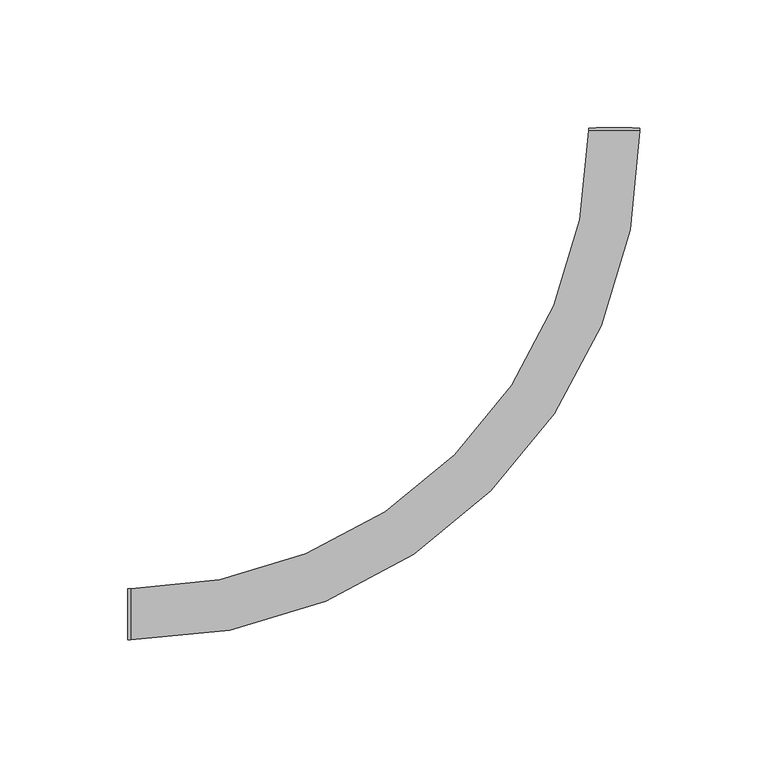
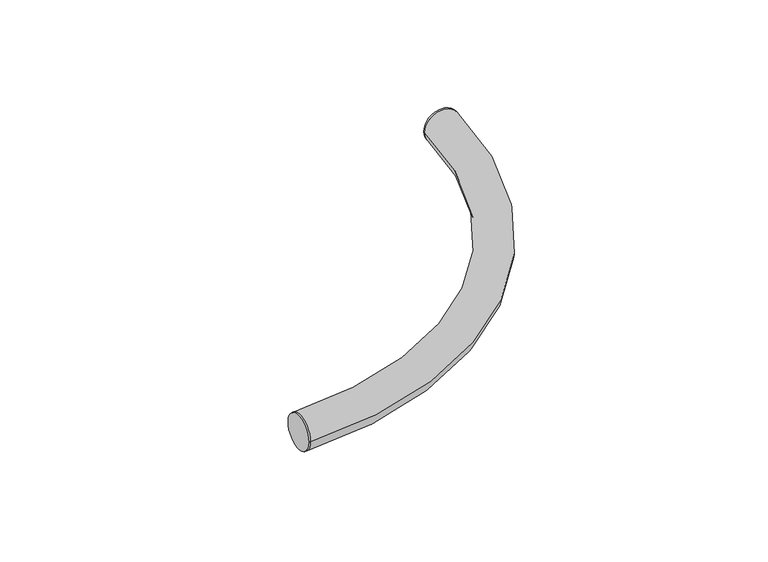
"""IFC4 building model written with IfcOpenShell, lengths in millimetres: cable carrier fitting geometry, ADSK_Поворот_Минимальный размер : Неспецифицируемый."""

import ifcopenshell
import ifcopenshell.guid

model = None  # the IFC model being written
_history = None  # IfcOwnerHistory: only IFC2X3 demands one
_inside = {}  # id of a spatial element -> (the spatial element, [elements in it])
_under = {}  # id of a project, library or spatial element -> (it, [spatial elements below it])
_declared = {}  # id of a project -> (the project, [libraries it declares])
_typed = {}  # id of a type object -> (the type object, [elements of that type])
_made_of = {}  # id of a material, layer set ... -> (it, [elements and type objects made of it])


def new_model(schema):
    """Start an empty IFC model of exactly this schema.

    Asked for "IFC4X3", IfcOpenShell would pick the latest addendum, in which some entities
    have other attributes; the version numbers below select the first issue.
    IFC2X3 requires an IfcOwnerHistory on every rooted entity: one is made here for all.
    """
    global model, _history
    if schema == "IFC4X3":
        model = ifcopenshell.file(schema_version=(4, 3, 0, 0))
    else:
        model = ifcopenshell.file(schema=schema)
    _inside.clear()
    _under.clear()
    _declared.clear()
    _typed.clear()
    _made_of.clear()
    _history = None
    if model.schema == "IFC2X3":
        org = make("IfcOrganization", Name="unknown")
        user = make(
            "IfcPersonAndOrganization",
            ThePerson=make("IfcPerson", FamilyName="unknown"),
            TheOrganization=org,
        )
        app = make(
            "IfcApplication",
            ApplicationDeveloper=org,
            Version="unknown",
            ApplicationFullName="unknown",
            ApplicationIdentifier="unknown",
        )
        _history = make(
            "IfcOwnerHistory",
            OwningUser=user,
            OwningApplication=app,
            ChangeAction="ADDED",
            CreationDate=0,
        )
    return model


def make(cls, **values):
    """One entity of the class cls with the attributes given. An attribute that is None is left unset."""
    return model.create_entity(
        cls, **{name: value for name, value in values.items() if value is not None}
    )


def rooted(cls, **values):
    """An entity with a GlobalId (a new one), such as an element, a storey or a relation."""
    return make(cls, GlobalId=ifcopenshell.guid.new(), OwnerHistory=_history, **values)


def si_unit(unit_type, name, prefix=None):
    """IfcSIUnit, for example si_unit("LENGTHUNIT", "METRE", prefix="MILLI")."""
    return make("IfcSIUnit", UnitType=unit_type, Prefix=prefix, Name=name)


def assignment(units):
    """IfcUnitAssignment: the units of a project."""
    return None if units is None else make("IfcUnitAssignment", Units=units)


def point(xyz):
    """IfcCartesianPoint."""
    return None if xyz is None else make("IfcCartesianPoint", Coordinates=xyz)


def direction(xyz):
    """IfcDirection."""
    return None if xyz is None else make("IfcDirection", DirectionRatios=xyz)


def frame(location, z_axis=None, x_axis=None):
    """IfcAxis2Placement3D, a coordinate frame: its origin and axes. An axis left out is left unset."""
    return make(
        "IfcAxis2Placement3D",
        Location=point(location),
        Axis=direction(z_axis),
        RefDirection=direction(x_axis),
    )


def origin():
    """The frame at (0, 0, 0) with its axes left unset."""
    return frame((0.0, 0.0, 0.0))


def place(relative_to, where):
    """IfcLocalPlacement: puts the frame where relative to a parent placement (None: the world)."""
    return make(
        "IfcLocalPlacement", PlacementRelTo=relative_to, RelativePlacement=where
    )


def context(
    kind, dimensions, precision=None, world=None, true_north=None, identifier=None
):
    """IfcGeometricRepresentationContext, for example the 3D "Model" context."""
    return make(
        "IfcGeometricRepresentationContext",
        ContextIdentifier=identifier,
        ContextType=kind,
        CoordinateSpaceDimension=dimensions,
        Precision=precision,
        WorldCoordinateSystem=world,
        TrueNorth=true_north,
    )


def project(units=None, contexts=None):
    """IfcProject with its units and contexts."""
    return rooted(
        "IfcProject",
        Name="project",
        RepresentationContexts=contexts,
        UnitsInContext=assignment(units),
    )


def spatial(cls, under=None, at=None, **own):
    """A site, building, storey or space (cls), placed at a placement, below another one or the project."""
    s = rooted(cls, ObjectPlacement=at, **own)
    if under is not None:
        _under.setdefault(under.id(), (under, []))[1].append(s)
    return s


def circle_curve(where, radius):
    """IfcCircle in the frame where."""
    return make("IfcCircle", Position=where, Radius=radius)


def ellipse_curve(where, semi_axis1, semi_axis2):
    """IfcEllipse in the frame where."""
    return make(
        "IfcEllipse", Position=where, SemiAxis1=semi_axis1, SemiAxis2=semi_axis2
    )


def trimmed(basis, trim1, trim2, sense, master):
    """IfcTrimmedCurve: the piece of a basis curve between two trims."""
    return make(
        "IfcTrimmedCurve",
        BasisCurve=basis,
        Trim1=trim1,
        Trim2=trim2,
        SenseAgreement=sense,
        MasterRepresentation=master,
    )


def shape(context_of_items, identifier, shape_type, items):
    """IfcShapeRepresentation: the items that make up one representation, for example the "Body"."""
    return make(
        "IfcShapeRepresentation",
        ContextOfItems=context_of_items,
        RepresentationIdentifier=identifier,
        RepresentationType=shape_type,
        Items=items,
    )


def source(mapping_origin, context_of_items, identifier, shape_type, items):
    """IfcRepresentationMap: a shape defined once, which mapped items show again and again."""
    return make(
        "IfcRepresentationMap",
        MappingOrigin=mapping_origin,
        MappedRepresentation=shape(context_of_items, identifier, shape_type, items),
    )


def transform(
    local_origin,
    x_axis=None,
    y_axis=None,
    z_axis=None,
    scale=None,
    scale2=None,
    scale3=None,
    uniform=True,
):
    """IfcCartesianTransformationOperator3D, or its non-uniform kind. x_axis, y_axis, z_axis: its Axis1, 2, 3."""
    if uniform:
        return make(
            "IfcCartesianTransformationOperator3D",
            Axis1=direction(x_axis),
            Axis2=direction(y_axis),
            LocalOrigin=point(local_origin),
            Scale=scale,
            Axis3=direction(z_axis),
        )
    return make(
        "IfcCartesianTransformationOperator3DnonUniform",
        Axis1=direction(x_axis),
        Axis2=direction(y_axis),
        LocalOrigin=point(local_origin),
        Scale=scale,
        Axis3=direction(z_axis),
        Scale2=scale2,
        Scale3=scale3,
    )


def mapped(mapping_source, mapping_target):
    """IfcMappedItem: shows the shape of a source again, moved by a transform."""
    return make(
        "IfcMappedItem", MappingSource=mapping_source, MappingTarget=mapping_target
    )


def made_of(thing, what):
    """Note that an element or type object is made of a material, layer set ...; save() writes the relation."""
    if what is not None:
        _made_of.setdefault(what.id(), (what, []))[1].append(thing)
    return thing


def element(
    cls,
    number,
    at=None,
    inside=None,
    cuts=None,
    type_object=None,
    material=None,
    context=None,
    identifier="Body",
    shape_type=None,
    held_by="IfcProductDefinitionShape",
    body=None,
    shapes=None,
    **own,
):
    """One element of the class cls, such as IfcWall. Its Tag is "e" and its number.

    at: its placement. inside: the storey or other place that contains it. cuts: it is an
    opening in that element (IfcRelVoidsElement). A single representation is given by context,
    identifier, shape_type and body (its items); several are given by shapes. held_by: the class
    of the entity that holds the representations. save() writes the other relations.
    """
    e = rooted(cls, Tag="e%d" % number, ObjectPlacement=at, **own)
    if body is not None:
        shapes = [shape(context, identifier, shape_type, body)]
    if shapes is not None:
        e.Representation = make(held_by, Representations=shapes)
    if inside is not None:
        _inside.setdefault(inside.id(), (inside, []))[1].append(e)
    if cuts is not None:
        rooted(
            "IfcRelVoidsElement", RelatingBuildingElement=cuts, RelatedOpeningElement=e
        )
    if type_object is not None:
        _typed.setdefault(type_object.id(), (type_object, []))[1].append(e)
    return made_of(e, material)


def aggregate(whole, parts):
    """IfcRelAggregates: a whole, such as a stair, and the parts it consists of."""
    return rooted("IfcRelAggregates", RelatingObject=whole, RelatedObjects=parts)


def save(model, path):
    """Write the relations noted so far, then the file.

    IfcRelAggregates (storeys below a building ...), IfcRelContainedInSpatialStructure (elements
    in a storey), IfcRelDefinesByType, IfcRelAssociatesMaterial and IfcRelDeclares: one each for
    every whole, place, type object, material and project.
    """
    for whole, parts in _under.values():
        aggregate(whole, parts)
    for where, things in _inside.values():
        rooted(
            "IfcRelContainedInSpatialStructure",
            RelatedElements=things,
            RelatingStructure=where,
        )
    for kind, things in _typed.values():
        rooted("IfcRelDefinesByType", RelatedObjects=things, RelatingType=kind)
    for what, things in _made_of.values():
        rooted("IfcRelAssociatesMaterial", RelatedObjects=things, RelatingMaterial=what)
    for by, libraries in _declared.values():
        rooted("IfcRelDeclares", RelatingContext=by, RelatedDefinitions=libraries)
    model.write(path)


def plane_surface(at):
    """IfcPlane: the flat surface through the origin of the frame at, square to its z axis."""
    return make("IfcPlane", Position=at)


def cylinder_surface(at, radius):
    """IfcCylindricalSurface: all points at the distance radius from the z axis of the frame at."""
    return make("IfcCylindricalSurface", Position=at, Radius=radius)


def revolved_surface(curve, axis_point, axis_direction):
    """IfcSurfaceOfRevolution: the curve turned about the line through axis_point along axis_direction."""
    return make(
        "IfcSurfaceOfRevolution",
        SweptCurve=make("IfcArbitraryOpenProfileDef", ProfileType="CURVE", Curve=curve),
        AxisPosition=make("IfcAxis1Placement", Location=point(axis_point), Axis=direction(axis_direction)),
    )


def advanced_brep(points, edges, surfaces, faces):
    """IfcAdvancedBrep: a solid bounded by faces that lie on surfaces and meet in shared edges.

    An edge is (start, end): straight between two places in points (the first is 0);
    or (start, end, curve); or (start, end, curve, False) where it runs against its curve.
    A face is (place in surfaces, loops), or (place, loops, False) where it looks against
    its surface's normal. A loop lists edges by number (the first is 1), with a minus sign
    where the edge is run from its end to its start. The first loop is the outer one.
    """
    corners = [point(p) for p in points]
    vertices = [make("IfcVertexPoint", VertexGeometry=c) for c in corners]
    made = []
    for start, end, *more in edges:
        made.append(
            make(
                "IfcEdgeCurve",
                EdgeStart=vertices[start],
                EdgeEnd=vertices[end],
                EdgeGeometry=more[0] if more else make("IfcPolyline", Points=[corners[start], corners[end]]),
                SameSense=more[1] if len(more) > 1 else True,
            )
        )
    hull = []
    for where, loops, *sense in faces:
        bounds = []
        for j, loop in enumerate(loops):
            ring = [make("IfcOrientedEdge", EdgeElement=made[abs(k) - 1], Orientation=k > 0) for k in loop]
            bounds.append(
                make(
                    "IfcFaceOuterBound" if j == 0 else "IfcFaceBound",
                    Bound=make("IfcEdgeLoop", EdgeList=ring),
                    Orientation=True,
                )
            )
        hull.append(make("IfcAdvancedFace", Bounds=bounds, FaceSurface=surfaces[where], SameSense=sense[0] if sense else True))
    return make("IfcAdvancedBrep", Outer=make("IfcClosedShell", CfsFaces=hull))


def cable_carrier_fitting_6f8a8c02(model_context):
    return source(origin(), model_context, "Body", "AdvancedBrep", [
        advanced_brep(
        [(-190.0, -10.0, 0.0), (-190.0, 10.0, 0.0), (-189.0, -10.0, 0.0), (-189.0, 10.0, 0.0), (-10.0, 189.0, 0.0), (10.0, 189.0, 0.0), (10.0, 190.0, 0.0), (-10.0, 190.0, 0.0)],
        [
            (0, 1, circle_curve(frame((-190.0, 0.0, 0.0), z_axis=(-1.0, -4.920489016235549e-12, 0.0), x_axis=(-4.920489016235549e-12, 1.0, 0.0)), 10.0)),
            (1, 0, circle_curve(frame((-190.0, 0.0, 0.0), z_axis=(-1.0, -4.920489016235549e-12, 0.0), x_axis=(-4.920489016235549e-12, 1.0, 0.0)), 10.0)),
            (0, 2),
            (2, 3, circle_curve(frame((-189.0, 0.0, 0.0), z_axis=(-1.0, -4.920489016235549e-12, 0.0), x_axis=(-4.920489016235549e-12, 1.0, 0.0)), 10.0)),
            (3, 1),
            (3, 2, circle_curve(frame((-189.0, 0.0, 0.0), z_axis=(-1.0, -4.920489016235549e-12, 0.0), x_axis=(-4.920489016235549e-12, 1.0, 0.0)), 10.0)),
            (4, 3, circle_curve(frame((-189.0, 189.0, 0.0), z_axis=(0.0, 0.0, -1.0), x_axis=(0.0, -1.0, 0.0)), 179.0)),
            (2, 5, circle_curve(frame((-189.0, 189.0, 0.0), z_axis=(0.0, 0.0, 1.0), x_axis=(0.0, -1.0, 0.0)), 199.0)),
            (5, 4, circle_curve(frame((0.0, 189.0, 0.0), z_axis=(0.0, -1.0, 0.0), x_axis=(-1.0, 0.0, 0.0)), 10.0)),
            (4, 5, circle_curve(frame((0.0, 189.0, 0.0), z_axis=(0.0, -1.0, 0.0), x_axis=(-1.0, 0.0, 0.0)), 10.0)),
            (6, 7, circle_curve(frame((0.0, 190.0, 0.0), z_axis=(0.0, 1.0, 0.0), x_axis=(-1.0, 0.0, 0.0)), 10.0)),
            (7, 6, circle_curve(frame((0.0, 190.0, 0.0), z_axis=(0.0, 1.0, 0.0), x_axis=(-1.0, 0.0, 0.0)), 10.0)),
            (5, 6),
            (7, 4),
        ],
        [
            plane_surface(frame((-190.0, 0.0, 0.0), z_axis=(-1.0, -4.920489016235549e-12, 0.0), x_axis=(0.0, 0.0, 1.0))),
            cylinder_surface(frame((-190.0, 0.0, 0.0), z_axis=(-1.0, -4.920489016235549e-12, 0.0), x_axis=(-4.920489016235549e-12, 1.0, 0.0)), 10.0),
            revolved_surface(trimmed(ellipse_curve(frame((-189.0, 0.0, 0.0), z_axis=(-1.0, 0.0, 0.0), x_axis=(0.0, 1.0, 0.0)), 10.0, 10.0), [point((-189.0, -10.0, 0.0))], [point((-189.0, 10.0, 0.0))], True, "CARTESIAN"), (-189.0, 189.0, 0.0), (0.0, 0.0, 1.0)),
            revolved_surface(trimmed(ellipse_curve(frame((-189.0, 0.0, 0.0), z_axis=(-1.0, 0.0, 0.0), x_axis=(0.0, 1.0, 0.0)), 10.0, 10.0), [point((-189.0, 10.0, 0.0))], [point((-189.0, -10.0, 0.0))], True, "CARTESIAN"), (-189.0, 189.0, 0.0), (0.0, 0.0, 1.0)),
            plane_surface(frame((0.0, 190.0, 0.0), z_axis=(0.0, 1.0, 0.0), x_axis=(0.0, 0.0, 1.0))),
            cylinder_surface(frame((0.0, 189.0, 0.0), z_axis=(0.0, -1.0, 0.0), x_axis=(-1.0, 0.0, 0.0)), 10.0),
        ],
        [
            (0, [[1, 2]]),
            (1, [[-1, 3, 4, 5]]),
            (1, [[-2, -5, 6, -3]]),
            (2, [[7, -4, 8, 9]]),
            (3, [[-8, -6, -7, 10]]),
            (4, [[11, 12]]),
            (5, [[-9, 13, -12, 14]]),
            (5, [[-10, -14, -11, -13]]),
        ],
    ),
    ])


if __name__ == "__main__":
    model = new_model("IFC4")
    model_context = context("Model", 3, world=origin())
    ifc_project = project(units=[si_unit("LENGTHUNIT", "METRE", prefix="MILLI")], contexts=[model_context])
    site = spatial("IfcSite", under=ifc_project)
    building = spatial("IfcBuilding", under=site)
    placement = place(None, origin())
    cable_carrier_fitting_shape = cable_carrier_fitting_6f8a8c02(model_context)
    element("IfcCableCarrierFitting", 1, ObjectType="ADSK_Поворот_Минимальный размер : Неспецифицируемый", at=placement, inside=building, context=model_context, shape_type="MappedRepresentation", body=[
        mapped(cable_carrier_fitting_shape, transform((0.0, 0.0, 0.0), x_axis=(1.0, 0.0, 0.0), y_axis=(0.0, 1.0, 0.0), z_axis=(0.0, 0.0, 1.0))),
    ])
    save(model, "model.ifc")
